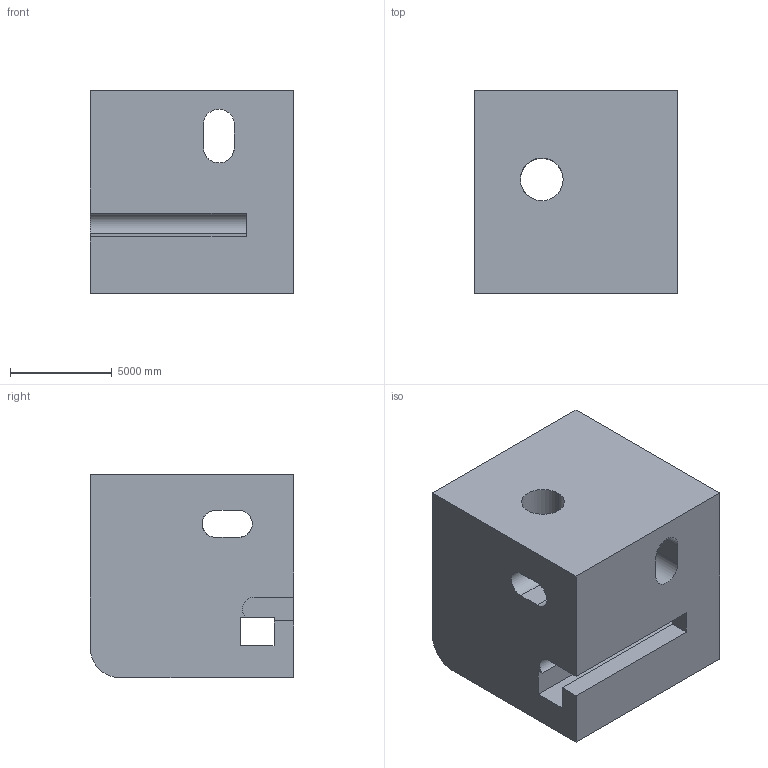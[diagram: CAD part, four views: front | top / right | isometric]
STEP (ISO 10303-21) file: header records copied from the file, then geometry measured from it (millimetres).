
FILE_DESCRIPTION (( 'STEP AP203' ), '1' );
FILE_NAME ('850.STEP', '2022-07-29T13:42:04', ( 'user' ), ( '' ), 'SwSTEP 2.0', 'SolidWorks 2021', '' );
FILE_SCHEMA (( 'CONFIG_CONTROL_DESIGN' ));
Length unit declared in the file: centimetre
Products named in the file (1): 850
Bounding box: 10000 x 10000 x 10000 mm (x, y, z)
Volume: 804700428895.5 mm3; surface area: 917891147.7 mm2
Topology: 1 solids, 1 shells, 45 faces, 137 edges, 92 vertices
Faces by surface type: plane 24, cylinder 21
Entity records: 2746 total; most frequent: CARTESIAN_POINT 1389, ORIENTED_EDGE 274, DIRECTION 261, EDGE_CURVE 137, VERTEX_POINT 92, AXIS2_PLACEMENT_3D 90, VECTOR 81, LINE 81
